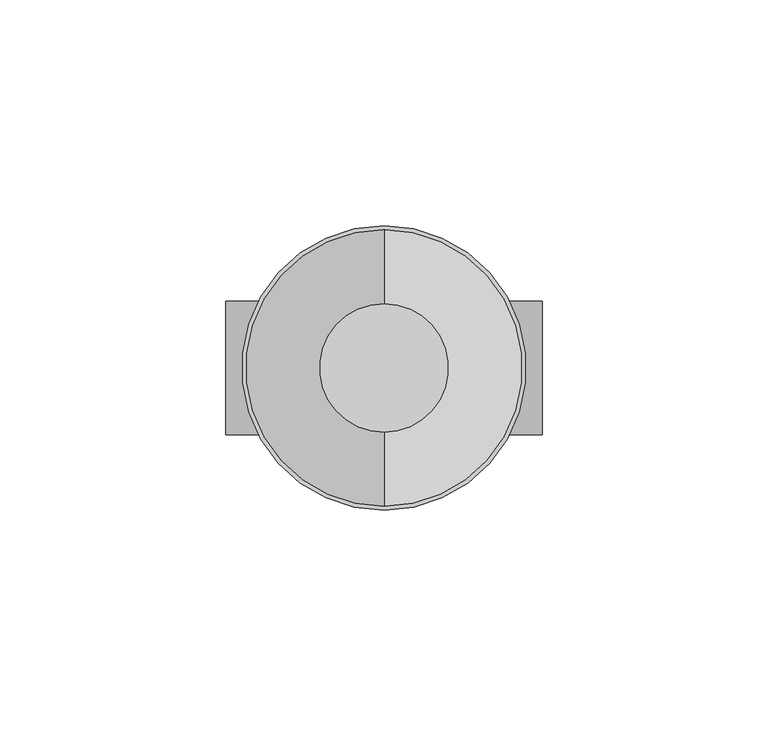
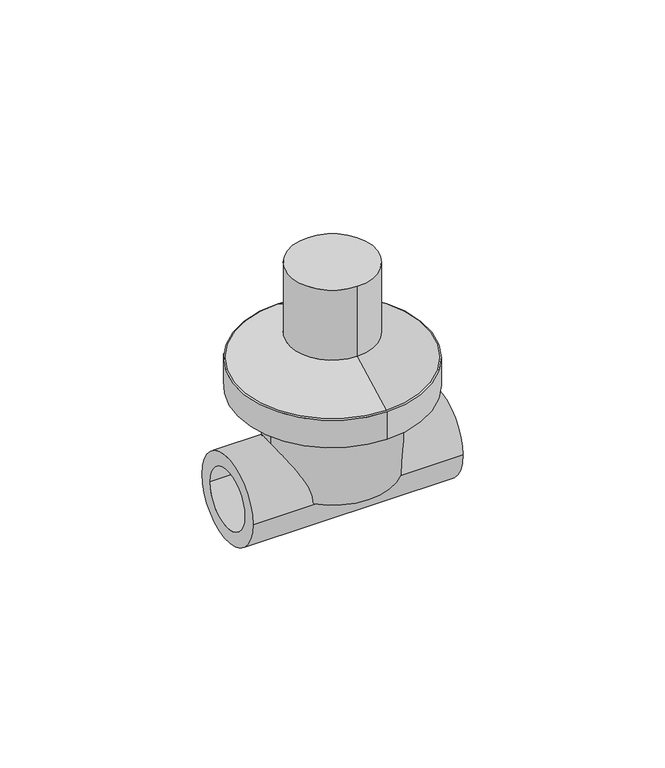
"""IFC4 building model written with IfcOpenShell, lengths in millimetres: valve geometry, Aquatherm - Concealed Valve Short Tamper Proof : SHORT TAMPER PROOF."""

from ifc_helpers import new_model, si_unit, point, frame, origin, origin_2d, place, context, project, spatial, polyline, circle_curve, trimmed, segment, composite_curve, outline, extrude, source, transform, mapped, element, save
from ifc_brep_helpers import plane_surface, cylinder_surface, revolved_surface, advanced_brep


def valve_6c1159b3(model_context):
    return source(origin(), model_context, "Body", "SolidModel", [
        extrude(outline(composite_curve([segment(trimmed(circle_curve(origin_2d(), 31.496), [point((0.0, 31.496))], [point((0.0, -31.496))], False, "CARTESIAN"), True, "CONTINUOUS"), segment(trimmed(circle_curve(origin_2d(), 31.496), [point((0.0, -31.496))], [point((0.0, 31.496))], False, "CARTESIAN"), True, "CONTINUOUS")], self_intersect=False)), frame((0.0, 0.0, 27.94), z_axis=(0.0, 0.0, 1.0), x_axis=(1.0, 0.0, 0.0)), (0.0, 0.0, 1.0), 9.652),
        extrude(outline(composite_curve([segment(trimmed(circle_curve(origin_2d(), 14.224), [point((0.0, 14.224))], [point((0.0, -14.224))], False, "CARTESIAN"), True, "CONTINUOUS"), segment(trimmed(circle_curve(origin_2d(), 14.224), [point((0.0, -14.224))], [point((0.0, 14.224))], False, "CARTESIAN"), True, "CONTINUOUS")], self_intersect=False)), frame((0.0, 0.0, 46.736), z_axis=(0.0, 0.0, 1.0), x_axis=(1.0, 0.0, 0.0)), (0.0, 0.0, 1.0), 24.638),
        advanced_brep(
        [(0.0, 14.224, 46.736), (0.0, -14.224, 46.736), (0.0, 31.496, 37.592), (0.0, -31.496, 37.592)],
        [
            (0, 1, circle_curve(frame((0.0, 0.0, 46.736), z_axis=(0.0, 0.0, 1.0), x_axis=(0.0, 1.0, 0.0)), 14.224)),
            (1, 0, circle_curve(frame((0.0, 0.0, 46.736), z_axis=(0.0, 0.0, 1.0), x_axis=(0.0, -1.0, 0.0)), 14.224)),
            (2, 3, circle_curve(frame((0.0, 0.0, 37.592), z_axis=(0.0, 0.0, -1.0), x_axis=(0.0, -1.0, 0.0)), 31.496)),
            (3, 2, circle_curve(frame((0.0, 0.0, 37.592), z_axis=(0.0, 0.0, -1.0), x_axis=(0.0, 1.0, 0.0)), 31.496)),
            (3, 1),
            (0, 2),
        ],
        [
            plane_surface(frame((0.0, 0.0, 46.736), z_axis=(0.0, 0.0, 1.0), x_axis=(-1.0, 0.0, 0.0))),
            plane_surface(frame((0.0, 0.0, 37.592), z_axis=(0.0, 0.0, -1.0), x_axis=(-1.0, 0.0, 0.0))),
            revolved_surface(polyline([(0.0, 14.223999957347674, 46.736), (0.0, 31.496, 37.592)]), (0.0, 0.0, 54.2663529), (0.0, 0.0, -1.0)),
            revolved_surface(polyline([(0.0, -14.223999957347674, 46.736), (0.0, -31.496, 37.592)]), (0.0, 0.0, 54.2663529), (0.0, 0.0, -1.0)),
        ],
        [
            (0, [[1, 2]]),
            (1, [[3, 4]]),
            (2, [[-4, 5, -1, 6]]),
            (3, [[-3, -6, -2, -5]]),
        ],
    ),
        advanced_brep(
        [(0.0, 0.0, 27.94), (20.574, 0.0, 27.94), (-20.574, 0.0, 27.94), (-20.574, 0.0, 0.0), (20.574, 0.0, 0.0), (0.0, 0.0, 0.0)],
        [
            (0, 1),
            (1, 2, circle_curve(frame((0.0, 0.0, 27.94), z_axis=(0.0, 0.0, 1.0), x_axis=(1.0, 0.0, 0.0)), 20.574)),
            (2, 0),
            (2, 1, circle_curve(frame((0.0, 0.0, 27.94), z_axis=(0.0, 0.0, 1.0), x_axis=(1.0, 0.0, 0.0)), 20.574)),
            (3, 4, circle_curve(frame((0.0, 0.0, 0.0), z_axis=(0.0, 0.0, -1.0), x_axis=(1.0, 0.0, 0.0)), 20.574)),
            (4, 5),
            (5, 3),
            (4, 3, circle_curve(frame((0.0, 0.0, 0.0), z_axis=(0.0, 0.0, -1.0), x_axis=(1.0, 0.0, 0.0)), 20.574)),
            (1, 4),
            (3, 2),
        ],
        [
            plane_surface(frame((0.0, 0.0, 27.94), z_axis=(0.0, 0.0, 1.0), x_axis=(1.0, 0.0, 0.0))),
            plane_surface(frame((0.0, 0.0, 0.0), z_axis=(0.0, 0.0, -1.0), x_axis=(1.0, 0.0, 0.0))),
            cylinder_surface(frame((0.0, 0.0, 44.7084809), z_axis=(0.0, 0.0, 1.0), x_axis=(1.0, 0.0, 0.0)), 20.574),
        ],
        [
            (0, [[1, 2, 3]]),
            (0, [[-3, 4, -1]]),
            (1, [[5, 6, 7]]),
            (1, [[8, -7, -6]]),
            (2, [[-2, 9, -5, 10]]),
            (2, [[-4, -10, -8, -9]]),
        ],
    ),
        extrude(outline(composite_curve([segment(trimmed(circle_curve(origin_2d(), 14.732), [point((-14.732, 0.0))], [point((14.732, 0.0))], False, "CARTESIAN"), True, "CONTINUOUS"), segment(trimmed(circle_curve(origin_2d(), 14.732), [point((14.732, 0.0))], [point((-14.732, 0.0))], False, "CARTESIAN"), True, "CONTINUOUS")], self_intersect=False), holes=[composite_curve([segment(trimmed(circle_curve(origin_2d(), 10.033), [point((-10.033, 0.0))], [point((10.033, 0.0))], True, "CARTESIAN"), True, "CONTINUOUS"), segment(trimmed(circle_curve(origin_2d(), 10.033), [point((10.033, 0.0))], [point((-10.033, 0.0))], True, "CARTESIAN"), True, "CONTINUOUS")], self_intersect=False)]), frame((-35.052, 0.0, 0.0), z_axis=(1.0, 0.0, 0.0), x_axis=(0.0, 1.0, 0.0)), (0.0, 0.0, 1.0), 70.104),
    ])


if __name__ == "__main__":
    model = new_model("IFC4")
    model_context = context("Model", 3, world=origin())
    ifc_project = project(units=[si_unit("LENGTHUNIT", "METRE", prefix="MILLI")], contexts=[model_context])
    site = spatial("IfcSite", under=ifc_project)
    building = spatial("IfcBuilding", under=site)
    placement = place(None, origin())
    valve_shape = valve_6c1159b3(model_context)
    element("IfcValve", 1, ObjectType="Aquatherm - Concealed Valve Short Tamper Proof : SHORT TAMPER PROOF", at=placement, inside=building, context=model_context, shape_type="MappedRepresentation", body=[
        mapped(valve_shape, transform((0.0, 0.0, 0.0), x_axis=(1.0, 0.0, 0.0), y_axis=(0.0, 1.0, 0.0), z_axis=(0.0, 0.0, 1.0))),
    ])
    save(model, "model.ifc")
